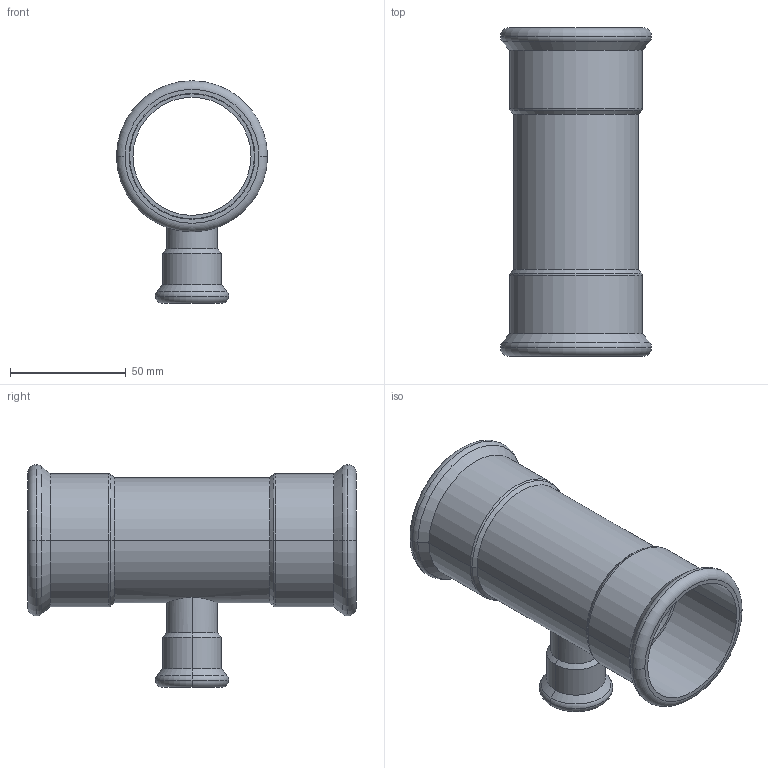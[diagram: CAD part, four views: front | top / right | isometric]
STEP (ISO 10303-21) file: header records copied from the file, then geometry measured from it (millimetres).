
FILE_DESCRIPTION(('CoCreate Modeling STEP Export'),'2;1');
FILE_NAME('C1415 54x22x54.stp','2014-11-12T10:45:20',(''),(''),'CoCreate Modeling STEP processor for AP214 (Solid Model)','CoCreate Modeling 17.00A 17-Jun-2010 (C) Parametric Technology GmbH','');
FILE_SCHEMA(('AUTOMOTIVE_DESIGN { 1 0 10303 214 1 1 1 1 }'));
Length unit declared in the file: millimetre
Products named in the file (2): C1415_54x22x54
Assembly tree (1 placements, depth 2):
  C1415_54x22x54
    C1415_54x22x54
Bounding box: 65.3 x 142 x 96.15 mm (x, y, z)
Volume: 52672.2 mm3; surface area: 57615.6 mm2
Topology: 1 solids, 1 shells, 64 faces, 131 edges, 77 vertices
Faces by surface type: cylinder 27, torus 16, cone 12, plane 9
Entity records: 2496 total; most frequent: CARTESIAN_POINT 1301, ORIENTED_EDGE 262, DIRECTION 212, EDGE_CURVE 131, AXIS2_PLACEMENT_3D 87, VERTEX_POINT 77, EDGE_LOOP 74, FACE_OUTER_BOUND 64
